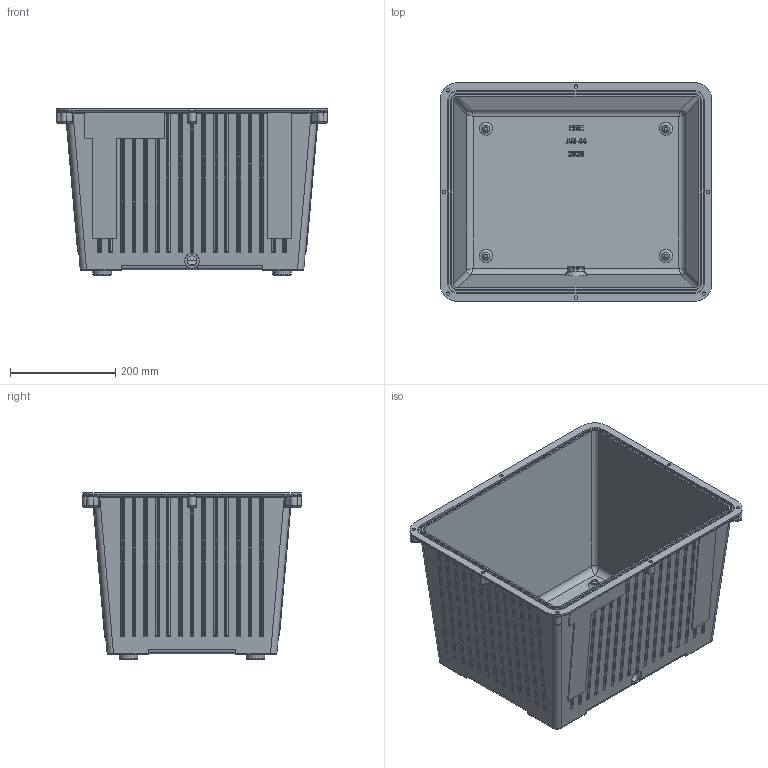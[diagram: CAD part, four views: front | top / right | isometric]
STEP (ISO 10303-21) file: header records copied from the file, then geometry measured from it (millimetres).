
FILE_DESCRIPTION( ( 'STEP AP214' ), '1' );
FILE_NAME( 'F:/HBE/Fertigungszeichnungen/Behälter AB 44.stp', '2007-04-02T10:43:27', ( ' ' ), ( ' ' ), 'XStep 1.0', ' ', ' ' );
FILE_SCHEMA( ( 'CONFIG_CONTROL_DESIGN) ( )' ) );
Length unit declared in the file: metre
Products named in the file (1): 1
Bounding box: 515 x 415 x 315 mm (x, y, z)
Surface area: 1334664.1 mm2 (no closed solid volume)
Topology: 0 solids, 1007 shells, 1007 faces, 4940 edges, 4851 vertices
Faces by surface type: cylinder 437, plane 323, bspline 125, torus 80, cone 24, extrusion 18
Full cylindrical faces by diameter (mm): 6.647 x7, 8.376 x4, 18.631 x1, 28 x1
Entity records: 83651 total; most frequent: CARTESIAN_POINT 40471, DIRECTION 6994, ORIENTED_EDGE 4826, EDGE_CURVE 4826, VERTEX_POINT 4826, AXIS2_PLACEMENT_3D 2411, VECTOR 2172, LINE 2154
